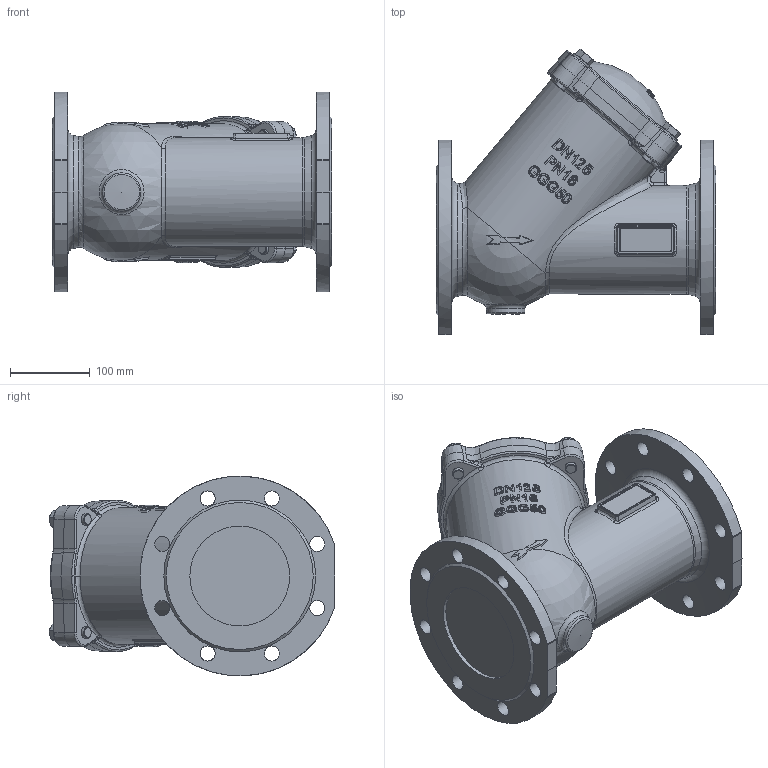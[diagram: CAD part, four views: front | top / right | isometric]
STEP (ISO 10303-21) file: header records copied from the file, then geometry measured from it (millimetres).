
FILE_DESCRIPTION (( 'STEP AP214' ), '1' );
FILE_NAME ('DN125.STEP', '2026-09-15T11:42:03', ( '' ), ( '' ), 'SwSTEP 2.0', 'SolidWorks 2024', '' );
FILE_SCHEMA (( 'AUTOMOTIVE_DESIGN' ));
Length unit declared in the file: millimetre
Products named in the file (1): DN125
Bounding box: 350 x 357.52 x 250 mm (x, y, z)
Volume: 10859132.8 mm3; surface area: 478342.9 mm2
Topology: 1 solids, 9 shells, 941 faces, 2452 edges, 1570 vertices
Faces by surface type: bspline 524, plane 154, cylinder 142, cone 67, torus 34, sphere 20
Full cylindrical faces by diameter (mm): 14 x8, 15 x4, 19 x16, 28 x4, 48 x1, 125 x2, 136 x1
Entity records: 55342 total; most frequent: CARTESIAN_POINT 28831, ORIENTED_EDGE 4632, EDGE_CURVE 2316, DIRECTION 1886, B_SPLINE_CURVE_WITH_KNOTS 1566, VERTEX_POINT 1513, EDGE_LOOP 1111, FACE_OUTER_BOUND 992
